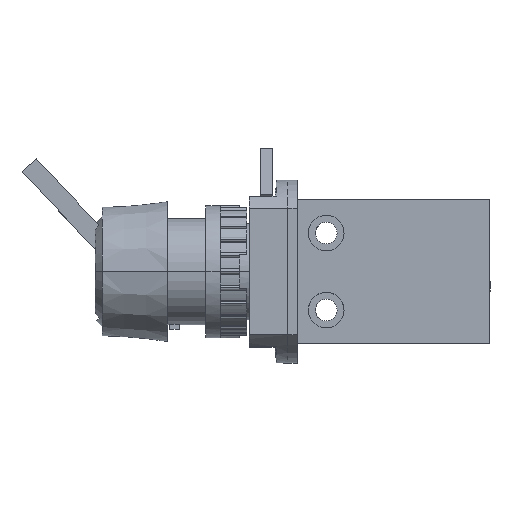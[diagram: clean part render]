
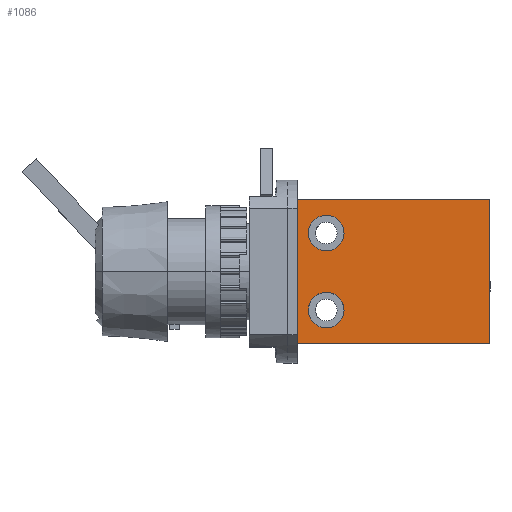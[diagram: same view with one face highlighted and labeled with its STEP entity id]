
A CAD part, top view. The second image highlights one B-rep face of the part: STEP entity #1086.
In plain terms, the highlighted planar face has unit normal (0, 0, 1).
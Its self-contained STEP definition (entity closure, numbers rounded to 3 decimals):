
#1086 = ADVANCED_FACE ( 'NONE', ( #6817, #6821, #6823 ), #8047, .T. ) ;
#1481 = VERTEX_POINT ( 'NONE', #10485 ) ;
#1548 = VERTEX_POINT ( 'NONE', #10551 ) ;
#1549 = VERTEX_POINT ( 'NONE', #10552 ) ;
#2102 = VERTEX_POINT ( 'NONE', #11105 ) ;
#2103 = VERTEX_POINT ( 'NONE', #11106 ) ;
#2110 = VERTEX_POINT ( 'NONE', #11113 ) ;
#2111 = VERTEX_POINT ( 'NONE', #11114 ) ;
#2376 = VERTEX_POINT ( 'NONE', #11379 ) ;
#2612 = EDGE_CURVE ( 'NONE', #1548, #1549, #7655, .T. ) ;
#2854 = EDGE_CURVE ( 'NONE', #2111, #2110, #13118, .T. ) ;
#2867 = EDGE_CURVE ( 'NONE', #1481, #1548, #13128, .T. ) ;
#2869 = EDGE_CURVE ( 'NONE', #2103, #2102, #13135, .T. ) ;
#2870 = EDGE_CURVE ( 'NONE', #1549, #2376, #13134, .T. ) ;
#2871 = EDGE_CURVE ( 'NONE', #2376, #1481, #13130, .T. ) ;
#3462 = EDGE_CURVE ( 'NONE', #2110, #2111, #13931, .T. ) ;
#3479 = EDGE_CURVE ( 'NONE', #2102, #2103, #13956, .T. ) ;
#3614 = AXIS2_PLACEMENT_3D ( 'NONE', #8051, #8052, #8053 ) ;
#4283 = ORIENTED_EDGE ( 'NONE', *, *, #3462, .T. ) ;
#4284 = ORIENTED_EDGE ( 'NONE', *, *, #2854, .T. ) ;
#4285 = ORIENTED_EDGE ( 'NONE', *, *, #3479, .T. ) ;
#4286 = ORIENTED_EDGE ( 'NONE', *, *, #2869, .T. ) ;
#4287 = ORIENTED_EDGE ( 'NONE', *, *, #2612, .F. ) ;
#4288 = ORIENTED_EDGE ( 'NONE', *, *, #2867, .F. ) ;
#4289 = ORIENTED_EDGE ( 'NONE', *, *, #2871, .F. ) ;
#4290 = ORIENTED_EDGE ( 'NONE', *, *, #2870, .F. ) ;
#5629 = EDGE_LOOP ( 'NONE', ( #4287, #4288, #4289, #4290 ) ) ;
#5631 = EDGE_LOOP ( 'NONE', ( #4285, #4286 ) ) ;
#5655 = EDGE_LOOP ( 'NONE', ( #4283, #4284 ) ) ;
#6817 = FACE_BOUND ( 'NONE', #5655, .T. ) ;
#6821 = FACE_BOUND ( 'NONE', #5631, .T. ) ;
#6823 = FACE_OUTER_BOUND ( 'NONE', #5629, .T. ) ;
#7655 = LINE ( 'NONE', #11813, #7659 ) ;
#7659 = VECTOR ( 'NONE', #11814, 1000. ) ;
#8047 = PLANE ( 'NONE',  #3614 ) ;
#8051 = CARTESIAN_POINT ( 'NONE',  ( 20., 15., 16. ) ) ;
#8052 = DIRECTION ( 'NONE',  ( 0., 0., 1. ) ) ;
#8053 = DIRECTION ( 'NONE',  ( 0.707, 0.707, 0. ) ) ;
#9726 = AXIS2_PLACEMENT_3D ( 'NONE', #12656, #12658, #12659 ) ;
#9730 = AXIS2_PLACEMENT_3D ( 'NONE', #12722, #12728, #12729 ) ;
#10091 = AXIS2_PLACEMENT_3D ( 'NONE', #15306, #15307, #15308 ) ;
#10098 = AXIS2_PLACEMENT_3D ( 'NONE', #15348, #15356, #15357 ) ;
#10485 = CARTESIAN_POINT ( 'NONE',  ( 40., 0., 16. ) ) ;
#10551 = CARTESIAN_POINT ( 'NONE',  ( 0., 0., 16. ) ) ;
#10552 = CARTESIAN_POINT ( 'NONE',  ( 0., 30., 16. ) ) ;
#11105 = CARTESIAN_POINT ( 'NONE',  ( 9.7, 23., 16. ) ) ;
#11106 = CARTESIAN_POINT ( 'NONE',  ( 2.3, 23., 16. ) ) ;
#11113 = CARTESIAN_POINT ( 'NONE',  ( 9.7, 7., 16. ) ) ;
#11114 = CARTESIAN_POINT ( 'NONE',  ( 2.3, 7., 16. ) ) ;
#11379 = CARTESIAN_POINT ( 'NONE',  ( 40., 30., 16. ) ) ;
#11813 = CARTESIAN_POINT ( 'NONE',  ( 0., 15., 16. ) ) ;
#11814 = DIRECTION ( 'NONE',  ( 0., 1., 0. ) ) ;
#12656 = CARTESIAN_POINT ( 'NONE',  ( 6., 7., 16. ) ) ;
#12658 = DIRECTION ( 'NONE',  ( 0., 0., -1. ) ) ;
#12659 = DIRECTION ( 'NONE',  ( 1., 0., 0. ) ) ;
#12717 = CARTESIAN_POINT ( 'NONE',  ( 0., 0., 16. ) ) ;
#12722 = CARTESIAN_POINT ( 'NONE',  ( 6., 23., 16. ) ) ;
#12723 = DIRECTION ( 'NONE',  ( -1., 0., 0. ) ) ;
#12725 = CARTESIAN_POINT ( 'NONE',  ( 40., 30., 16. ) ) ;
#12728 = DIRECTION ( 'NONE',  ( 0., 0., -1. ) ) ;
#12729 = DIRECTION ( 'NONE',  ( 1., 0., 0. ) ) ;
#12730 = CARTESIAN_POINT ( 'NONE',  ( 40., 0., 16. ) ) ;
#12731 = DIRECTION ( 'NONE',  ( 1., 0., 0. ) ) ;
#12734 = DIRECTION ( 'NONE',  ( 0., -1., 0. ) ) ;
#13102 = VECTOR ( 'NONE', #12723, 1000. ) ;
#13118 = CIRCLE ( 'NONE', #9726, 3.7 ) ;
#13128 = LINE ( 'NONE', #12717, #13102 ) ;
#13130 = LINE ( 'NONE', #12730, #13136 ) ;
#13131 = VECTOR ( 'NONE', #12731, 1000. ) ;
#13134 = LINE ( 'NONE', #12725, #13131 ) ;
#13135 = CIRCLE ( 'NONE', #9730, 3.7 ) ;
#13136 = VECTOR ( 'NONE', #12734, 1000. ) ;
#13931 = CIRCLE ( 'NONE', #10091, 3.7 ) ;
#13956 = CIRCLE ( 'NONE', #10098, 3.7 ) ;
#15306 = CARTESIAN_POINT ( 'NONE',  ( 6., 7., 16. ) ) ;
#15307 = DIRECTION ( 'NONE',  ( 0., 0., -1. ) ) ;
#15308 = DIRECTION ( 'NONE',  ( 1., 0., 0. ) ) ;
#15348 = CARTESIAN_POINT ( 'NONE',  ( 6., 23., 16. ) ) ;
#15356 = DIRECTION ( 'NONE',  ( 0., 0., -1. ) ) ;
#15357 = DIRECTION ( 'NONE',  ( 1., 0., 0. ) ) ;
